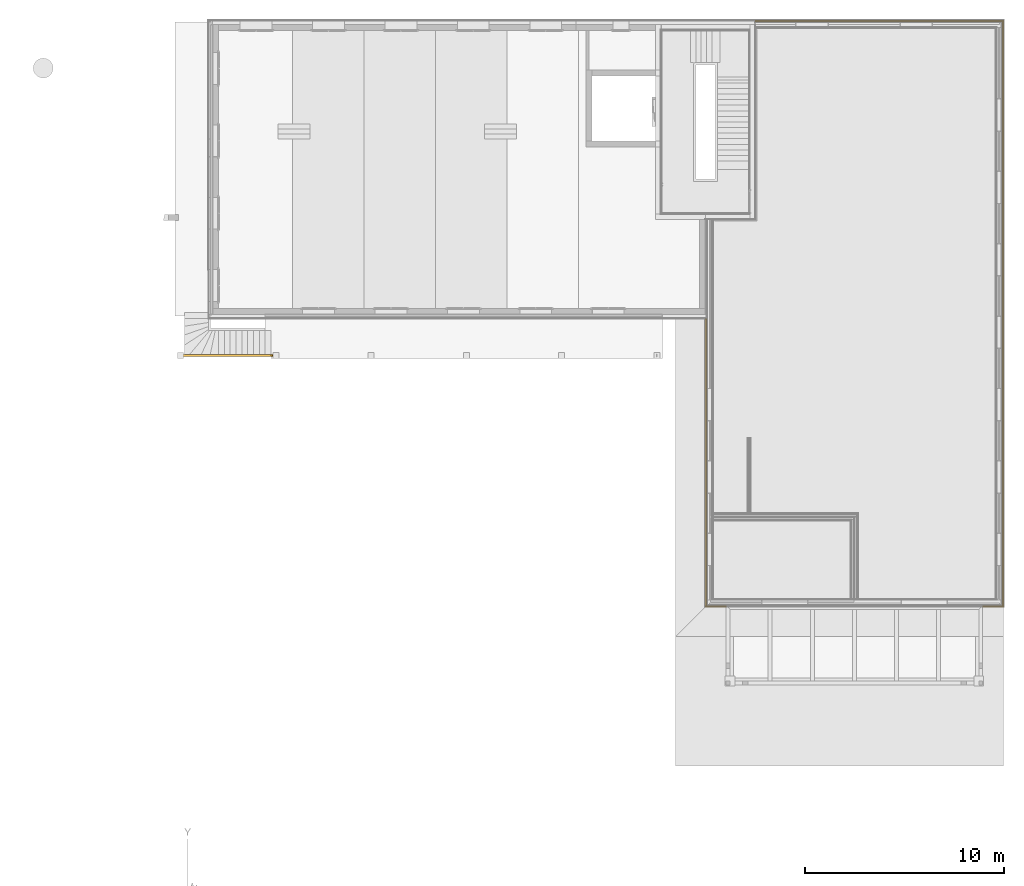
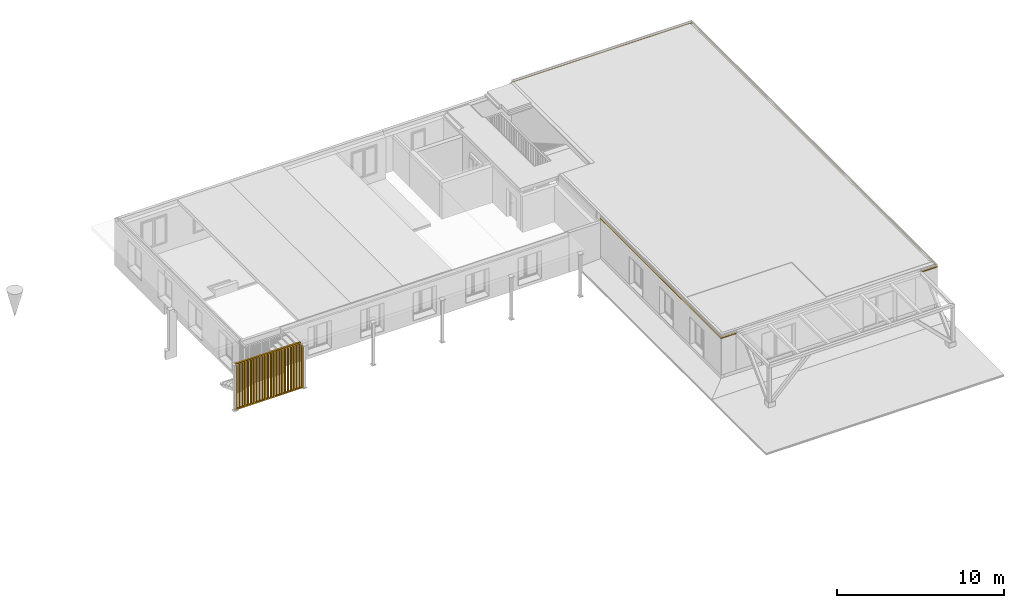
# One storey, part 18 of 20: 5 curtain walls, 1 railing.
"""IFC4 building model written with IfcOpenShell, lengths in millimetres."""

from ifc_helpers import new_model, entity, si_unit, converted_unit, derived_unit, direction, frame, origin_with_axes, place, context, subcontext, project, spatial, polygons, material, constituent, constituent_set, type_object, element, save


model = new_model("IFC4")

# Units and contexts
model_context = context("Model", 3, precision=0.01, world=origin_with_axes(), true_north=direction((0.0, 1.0)))
body_context = subcontext(model_context, "Body", "Model", "MODEL_VIEW")
ifc_project = project(units=[si_unit("LENGTHUNIT", "METRE", prefix="MILLI"), si_unit("AREAUNIT", "SQUARE_METRE"), si_unit("VOLUMEUNIT", "CUBIC_METRE"), converted_unit("PLANEANGLEUNIT", "DEGREE", entity("IfcPlaneAngleMeasure", 0.0174532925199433), si_unit("PLANEANGLEUNIT", "RADIAN"), dimensions=[0, 0, 0, 0, 0, 0, 0]), converted_unit("TIMEUNIT", "Year", entity("IfcTimeMeasure", 31557600.0), si_unit("TIMEUNIT", "SECOND"), dimensions=[0, 0, 1, 0, 0, 0, 0]), si_unit("MASSUNIT", "GRAM", prefix="KILO"), si_unit("THERMODYNAMICTEMPERATUREUNIT", "DEGREE_CELSIUS"), si_unit("LUMINOUSINTENSITYUNIT", "LUMEN"), si_unit("ENERGYUNIT", "JOULE", prefix="MEGA"), derived_unit("THERMALCONDUCTANCEUNIT", [(si_unit("POWERUNIT", "WATT"), 1), (si_unit("LENGTHUNIT", "METRE"), -1), (si_unit("THERMODYNAMICTEMPERATUREUNIT", "KELVIN"), -1)]), derived_unit("SPECIFICHEATCAPACITYUNIT", [(si_unit("ENERGYUNIT", "JOULE"), 1), (si_unit("MASSUNIT", "GRAM", prefix="KILO"), -1), (si_unit("THERMODYNAMICTEMPERATUREUNIT", "KELVIN"), -1)]), derived_unit("MASSDENSITYUNIT", [(si_unit("MASSUNIT", "GRAM", prefix="KILO"), 1), (si_unit("VOLUMEUNIT", "CUBIC_METRE"), -1)])], contexts=[model_context])

# Site, building, storey
site_placement = place(None, origin_with_axes())
site = spatial("IfcSite", under=ifc_project, at=site_placement, Name="Gelände", CompositionType="ELEMENT")
building_placement = place(site_placement, origin_with_axes())
building = spatial("IfcBuilding", under=site, at=building_placement, Name="Gebäude", CompositionType="ELEMENT")
storey_placement = place(building_placement, frame((0.0, 0.0, 5.198845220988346e-05), z_axis=(0.0, 0.0, 1.0), x_axis=(1.0, 0.0, 0.0)))
storey = spatial("IfcBuildingStorey", under=building, at=storey_placement, Name="EG", CompositionType="ELEMENT", Elevation=0.0)

# Curtain walls
ifc_material_1 = material(Name="Stahl")
ifc_constituent_1 = constituent(ifc_material_1, Name="Stahl")
ifc_constituent_set_1 = constituent_set(constituents=[ifc_constituent_1], Name="Fassadentrennblech 01")
curtain_wall_type = type_object("IfcCurtainWallType", Name="Fassadentrennblech 01 80 x 71", PredefinedType="NOTDEFINED")
curtain_wall_1_placement = place(storey_placement, frame((32857.99744391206, 37876.59726257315, 3217.955194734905), z_axis=(0.0, 0.0, 1.0), x_axis=(1.508108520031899e-09, 1.0, 0.0)))
element("IfcCurtainWall", 1, at=curtain_wall_1_placement, inside=storey, type_object=curtain_wall_type, material=ifc_constituent_set_1, Name="Unterzug-032", PredefinedType="NOTDEFINED", context=body_context, shape_type="Tessellation", body=[
    polygons([(0.0, 0.0, 9.685927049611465), (0.0, 12428.99999914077, 9.685927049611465), (77.40470302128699, 12428.99999914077, 2.04475327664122), (77.40470302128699, -77.40470290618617, 2.04475327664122), (0.0, 0.0, 42.69563025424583), (0.0, 12428.99999914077, 42.69563025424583), (2.700001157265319, 12428.99999914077, 42.69563025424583), (2.700001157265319, 12428.99999914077, 12.52688023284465), (80.10479082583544, 12428.99999914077, 4.571509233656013), (80.10474928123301, 12428.99999914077, -27.95524672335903), (77.40470302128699, 12428.99999914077, -27.95524672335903), (77.40470302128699, -77.40470290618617, -27.95524672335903), (80.10474928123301, -80.10474916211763, -27.95524672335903), (80.10479082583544, -80.10479070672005, 4.571509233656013), (2.700001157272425, -2.700001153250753, 12.52688023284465), (2.700001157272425, -2.700001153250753, 42.69563025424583)], [[[1, 2, 3, 4]], [[5, 6, 2, 1]], [[3, 2, 6, 7, 8, 9, 10, 11]], [[4, 3, 11, 12]], [[5, 1, 4, 12, 13, 14, 15, 16]], [[16, 7, 6, 5]], [[15, 8, 7, 16]], [[14, 9, 8, 15]], [[13, 10, 9, 14]], [[12, 11, 10, 13]]], closed=True),
])
ifc_constituent_2 = constituent(ifc_material_1, Name="Stahl")
ifc_constituent_set_2 = constituent_set(constituents=[ifc_constituent_2], Name="Fassadentrennblech 01")
curtain_wall_2_placement = place(storey_placement, frame((32857.9974432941, 8518.597281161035, 3217.955194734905), z_axis=(0.0, 0.0, 1.0), x_axis=(0.0, 1.0, 0.0)))
element("IfcCurtainWall", 2, at=curtain_wall_2_placement, inside=storey, type_object=curtain_wall_type, material=ifc_constituent_set_2, Name="Unterzug-032", PredefinedType="NOTDEFINED", context=body_context, shape_type="Tessellation", body=[
    polygons([(0.0, 0.0, 42.69563025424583), (0.0, 970.0000000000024, 42.69563025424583), (-2.700001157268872, 970.0000000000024, 42.69563025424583), (-2.700001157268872, -2.700001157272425, 42.69563025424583), (0.0, 0.0, 9.685927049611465), (0.0, 970.0000000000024, 9.685927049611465), (-77.40470302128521, 970.0000000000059, 2.04475327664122), (-77.40470302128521, 970.0000000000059, -27.95524672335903), (-80.10474928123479, 970.0000000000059, -27.95524672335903), (-80.10479082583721, 970.0000000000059, 4.571509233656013), (-2.700001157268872, 970.0000000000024, 12.52688023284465), (-2.700001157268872, -2.700001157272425, 12.52688023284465), (-80.10479082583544, -80.10479082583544, 4.571509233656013), (-80.10474928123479, -80.10474928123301, -27.95524672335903), (-77.40470302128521, -77.40470302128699, -27.95524672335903), (-77.40470302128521, -77.40470302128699, 2.04475327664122)], [[[1, 2, 3, 4]], [[5, 6, 2, 1]], [[3, 2, 6, 7, 8, 9, 10, 11]], [[4, 3, 11, 12]], [[5, 1, 4, 12, 13, 14, 15, 16]], [[16, 7, 6, 5]], [[15, 8, 7, 16]], [[14, 9, 8, 15]], [[13, 10, 9, 14]], [[12, 11, 10, 13]]], closed=True),
])
ifc_constituent_3 = constituent(ifc_material_1, Name="Stahl")
ifc_constituent_set_3 = constituent_set(constituents=[ifc_constituent_3], Name="Fassadentrennblech 01")
curtain_wall_3_placement = place(storey_placement, frame((32857.99744391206, 37876.59726257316, 3217.955194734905), z_axis=(0.0, 0.0, 1.0), x_axis=(-1.0, 0.0, 0.0)))
element("IfcCurtainWall", 3, at=curtain_wall_3_placement, inside=storey, type_object=curtain_wall_type, material=ifc_constituent_set_3, Name="Unterzug-032", PredefinedType="NOTDEFINED", context=body_context, shape_type="Tessellation", body=[
    polygons([(0.0, 0.0, 42.69563025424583), (0.0, 29357.99998141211, 42.69563025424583), (-2.700001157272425, 29360.69998256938, 42.69563025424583), (-2.700001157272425, -2.700001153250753, 42.69563025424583), (0.0, 0.0, 9.685927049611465), (0.0, 29357.99998141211, 9.685927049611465), (-77.40470302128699, 29435.4046844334, 2.04475327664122), (-77.40470302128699, 29435.4046844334, -27.95524672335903), (-80.10474928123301, 29438.10473069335, -27.95524672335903), (-80.10479082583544, 29438.10477223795, 4.571509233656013), (-2.700001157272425, 29360.69998256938, 12.52688023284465), (-2.700001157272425, -2.700001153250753, 12.52688023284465), (-80.10479082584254, -80.10479070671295, 4.571509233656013), (-80.10474928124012, -80.10474916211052, -27.95524672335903), (-77.40470302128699, -77.40470290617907, -27.95524672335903), (-77.40470302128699, -77.40470290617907, 2.04475327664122)], [[[1, 2, 3, 4]], [[5, 6, 2, 1]], [[3, 2, 6, 7, 8, 9, 10, 11]], [[4, 3, 11, 12]], [[5, 1, 4, 12, 13, 14, 15, 16]], [[16, 7, 6, 5]], [[15, 8, 7, 16]], [[14, 9, 8, 15]], [[13, 10, 9, 14]], [[12, 11, 10, 13]]], closed=True),
])
ifc_constituent_4 = constituent(ifc_material_1, Name="Stahl")
ifc_constituent_set_4 = constituent_set(constituents=[ifc_constituent_4], Name="Fassadentrennblech 01")
curtain_wall_4_placement = place(storey_placement, frame((17999.99744477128, 8518.597281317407, 3217.955194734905), z_axis=(0.0, 0.0, 1.0), x_axis=(0.0, -1.0, 0.0)))
element("IfcCurtainWall", 4, at=curtain_wall_4_placement, inside=storey, type_object=curtain_wall_type, material=ifc_constituent_set_4, Name="Unterzug-032", PredefinedType="NOTDEFINED", context=body_context, shape_type="Tessellation", body=[
    polygons([(0.0, 0.0, 9.685927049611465), (0.0, 969.9999999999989, 9.685927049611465), (77.40470302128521, 969.9999999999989, 2.04475327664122), (77.40470302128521, -77.40470302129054, 2.04475327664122), (0.0, 0.0, 42.69563025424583), (0.0, 969.9999999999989, 42.69563025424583), (2.700001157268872, 969.9999999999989, 42.69563025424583), (2.700001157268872, 969.9999999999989, 12.52688023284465), (80.10479082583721, 969.9999999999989, 4.571509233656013), (80.10474928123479, 969.9999999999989, -27.95524672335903), (77.40470302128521, 969.9999999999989, -27.95524672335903), (77.40470302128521, -77.40470302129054, -27.95524672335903), (80.10474928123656, -80.10474928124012, -27.95524672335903), (80.10479082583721, -80.10479082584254, 4.571509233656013), (2.700001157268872, -2.700001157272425, 12.52688023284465), (2.700001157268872, -2.700001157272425, 42.69563025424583)], [[[1, 2, 3, 4]], [[5, 6, 2, 1]], [[3, 2, 6, 7, 8, 9, 10, 11]], [[4, 3, 11, 12]], [[5, 1, 4, 12, 13, 14, 15, 16]], [[16, 7, 6, 5]], [[15, 8, 7, 16]], [[14, 9, 8, 15]], [[13, 10, 9, 14]], [[12, 11, 10, 13]]], closed=True),
])
ifc_constituent_5 = constituent(ifc_material_1, Name="Stahl")
ifc_constituent_set_5 = constituent_set(constituents=[ifc_constituent_5], Name="Fassadentrennblech 01")
curtain_wall_5_placement = place(storey_placement, frame((17999.99744477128, 22947.48446271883, 3217.955194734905), z_axis=(0.0, 0.0, 1.0), x_axis=(-1.0, 0.0, 0.0)))
element("IfcCurtainWall", 5, at=curtain_wall_5_placement, inside=storey, type_object=curtain_wall_type, material=ifc_constituent_set_5, Name="Unterzug-032", PredefinedType="NOTDEFINED", context=body_context, shape_type="Tessellation", body=[
    polygons([(0.0, 0.0, 9.685927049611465), (0.0, 14428.88718140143, 9.685927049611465), (77.40470302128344, 14506.29188442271, 2.04475327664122), (77.40470302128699, 0.0, 2.04475327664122), (0.0, 0.0, 42.69563025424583), (0.0, 14428.88718140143, 42.69563025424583), (2.700001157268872, 14431.5871825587, 42.69563025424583), (2.700001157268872, 14431.5871825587, 12.52688023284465), (80.10479082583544, 14508.99197222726, 4.571509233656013), (80.10474928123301, 14508.99193068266, -27.95524672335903), (77.40470302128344, 14506.29188442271, -27.95524672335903), (77.40470302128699, 0.0, -27.95524672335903), (80.10474928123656, 0.0, -27.95524672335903), (80.10479082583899, 0.0, 4.571509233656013), (2.700001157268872, 0.0, 12.52688023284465), (2.700001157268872, 0.0, 42.69563025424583)], [[[1, 2, 3, 4]], [[5, 6, 2, 1]], [[3, 2, 6, 7, 8, 9, 10, 11]], [[4, 3, 11, 12]], [[5, 1, 4, 12, 13, 14, 15, 16]], [[16, 7, 6, 5]], [[15, 8, 7, 16]], [[14, 9, 8, 15]], [[13, 10, 9, 14]], [[12, 11, 10, 13]]], closed=True),
])

# Railing
ifc_material_2 = material(Name="Vollholzwerkstoff")
ifc_constituent_6 = constituent(ifc_material_2, Name="Vollholzwerkstoff 1")
ifc_constituent_7 = constituent(ifc_material_2, Name="Vollholzwerkstoff 2")
ifc_constituent_8 = constituent(ifc_material_2, Name="Vollholzwerkstoff 3")
ifc_constituent_9 = constituent(ifc_material_2, Name="Vollholzwerkstoff 4")
ifc_constituent_10 = constituent(ifc_material_2, Name="Vollholzwerkstoff 5")
ifc_constituent_11 = constituent(ifc_material_2, Name="Vollholzwerkstoff 6")
ifc_constituent_12 = constituent(ifc_material_2, Name="Vollholzwerkstoff 7")
ifc_constituent_13 = constituent(ifc_material_2, Name="Vollholzwerkstoff 8")
ifc_constituent_14 = constituent(ifc_material_2, Name="Vollholzwerkstoff 9")
ifc_constituent_15 = constituent(ifc_material_2, Name="Vollholzwerkstoff 10")
ifc_constituent_16 = constituent(ifc_material_2, Name="Vollholzwerkstoff 11")
ifc_constituent_17 = constituent(ifc_material_2, Name="Vollholzwerkstoff 12")
ifc_constituent_18 = constituent(ifc_material_2, Name="Vollholzwerkstoff 13")
ifc_constituent_19 = constituent(ifc_material_2, Name="Vollholzwerkstoff 14")
ifc_constituent_20 = constituent(ifc_material_2, Name="Vollholzwerkstoff 15")
ifc_constituent_21 = constituent(ifc_material_2, Name="Vollholzwerkstoff 16")
ifc_constituent_22 = constituent(ifc_material_2, Name="Vollholzwerkstoff 17")
ifc_constituent_23 = constituent(ifc_material_2, Name="Vollholzwerkstoff 18")
ifc_constituent_24 = constituent(ifc_material_2, Name="Vollholzwerkstoff 19")
ifc_constituent_25 = constituent(ifc_material_2, Name="Vollholzwerkstoff 20")
ifc_constituent_26 = constituent(ifc_material_2, Name="Vollholzwerkstoff 21")
ifc_constituent_27 = constituent(ifc_material_2, Name="Vollholzwerkstoff 22")
ifc_constituent_28 = constituent(ifc_material_2, Name="Vollholzwerkstoff 23")
ifc_constituent_29 = constituent(ifc_material_2, Name="Vollholzwerkstoff 24")
ifc_constituent_30 = constituent(ifc_material_2, Name="Vollholzwerkstoff 25")
ifc_constituent_31 = constituent(ifc_material_2, Name="Vollholzwerkstoff 26")
ifc_constituent_32 = constituent(ifc_material_2, Name="Vollholzwerkstoff 27")
ifc_constituent_33 = constituent(ifc_material_2, Name="Vollholzwerkstoff 28")
ifc_constituent_set_6 = constituent_set(constituents=[ifc_constituent_6, ifc_constituent_7, ifc_constituent_8, ifc_constituent_9, ifc_constituent_10, ifc_constituent_11, ifc_constituent_12, ifc_constituent_13, ifc_constituent_14, ifc_constituent_15, ifc_constituent_16, ifc_constituent_17, ifc_constituent_18, ifc_constituent_19, ifc_constituent_20, ifc_constituent_21, ifc_constituent_22, ifc_constituent_23, ifc_constituent_24, ifc_constituent_25, ifc_constituent_26, ifc_constituent_27, ifc_constituent_28, ifc_constituent_29, ifc_constituent_30, ifc_constituent_31, ifc_constituent_32, ifc_constituent_33])
railing_type = type_object("IfcRailingType", Name="Geländerart", PredefinedType="NOTDEFINED")
railing_placement = place(storey_placement, frame((-8585.063643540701, 21097.59674077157, -425.0), z_axis=(0.0, 0.0, 1.0), x_axis=(1.0, 0.0, 0.0)))
element("IfcRailing", 6, at=railing_placement, inside=storey, type_object=railing_type, material=ifc_constituent_set_6, Name="Geländer-001", PredefinedType="NOTDEFINED", context=body_context, shape_type="Tessellation", body=[
    polygons([(4491.115876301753, -59.99999999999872, 3354.999948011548), (139.0594620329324, -59.99999999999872, 3354.999948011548), (139.0594620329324, -59.99999999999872, 3274.999948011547), (4491.115876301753, -59.99999999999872, 3274.999948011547), (4491.115876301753, 59.99999999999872, 3354.999948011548), (139.0594620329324, 59.99999999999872, 3354.999948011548), (139.0594620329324, 59.99999999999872, 3274.999948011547), (4491.115876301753, 59.99999999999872, 3274.999948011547)], [[[1, 2, 3, 4]], [[5, 6, 2, 1]], [[3, 2, 6, 7]], [[4, 3, 7, 8]], [[5, 1, 4, 8]], [[8, 7, 6, 5]]], closed=True),
    polygons([(139.0594620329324, -59.99999999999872, 39.99999999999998), (139.0594620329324, -59.99999999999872, -39.99999999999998), (4491.115876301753, -59.99999999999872, -39.99999999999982), (4491.115876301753, -59.99999999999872, 40.00000000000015), (139.0594620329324, 59.99999999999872, 39.99999999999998), (139.0594620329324, 59.99999999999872, -39.99999999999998), (4491.115876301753, 59.99999999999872, -39.99999999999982), (4491.115876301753, 59.99999999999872, 40.00000000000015)], [[[1, 2, 3, 4]], [[1, 5, 6, 2]], [[2, 6, 7, 3]], [[4, 3, 7, 8]], [[5, 1, 4, 8]], [[6, 5, 8, 7]]], closed=True),
    polygons([(276.9749583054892, -59.99999999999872, 39.99999999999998), (276.9749583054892, 59.99999999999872, 39.99999999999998), (276.9749583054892, 59.99999999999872, 3274.999948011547), (276.9749583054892, -59.99999999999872, 3274.999948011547), (196.9749583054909, -59.99999999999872, 39.99999999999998), (196.9749583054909, 59.99999999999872, 39.99999999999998), (196.9749583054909, 59.99999999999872, 3274.999948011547), (196.9749583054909, -59.99999999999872, 3274.999948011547)], [[[1, 2, 3, 4]], [[1, 5, 6, 2]], [[2, 6, 7, 3]], [[4, 3, 7, 8]], [[5, 1, 4, 8]], [[6, 5, 8, 7]]], closed=True),
    polygons([(474.8904545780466, -59.99999999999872, 39.99999999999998), (474.8904545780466, 59.99999999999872, 39.99999999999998), (474.8904545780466, 59.99999999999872, 3274.999948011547), (474.8904545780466, -59.99999999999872, 3274.999948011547), (394.8904545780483, -59.99999999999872, 39.99999999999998), (394.8904545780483, 59.99999999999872, 39.99999999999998), (394.8904545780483, 59.99999999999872, 3274.999948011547), (394.8904545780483, -59.99999999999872, 3274.999948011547)], [[[1, 2, 3, 4]], [[1, 5, 6, 2]], [[2, 6, 7, 3]], [[4, 3, 7, 8]], [[5, 1, 4, 8]], [[6, 5, 8, 7]]], closed=True),
    polygons([(672.8059508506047, -59.99999999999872, 39.99999999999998), (672.8059508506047, 59.99999999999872, 39.99999999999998), (672.8059508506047, 59.99999999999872, 3274.999948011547), (672.8059508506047, -59.99999999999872, 3274.999948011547), (592.8059508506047, -59.99999999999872, 39.99999999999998), (592.8059508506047, 59.99999999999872, 39.99999999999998), (592.8059508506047, 59.99999999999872, 3274.999948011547), (592.8059508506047, -59.99999999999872, 3274.999948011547)], [[[1, 2, 3, 4]], [[1, 5, 6, 2]], [[2, 6, 7, 3]], [[4, 3, 7, 8]], [[5, 1, 4, 8]], [[6, 5, 8, 7]]], closed=True),
    polygons([(870.7214471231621, -59.99999999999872, 39.99999999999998), (870.7214471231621, 59.99999999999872, 39.99999999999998), (870.7214471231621, 59.99999999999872, 3274.999948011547), (870.7214471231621, -59.99999999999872, 3274.999948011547), (790.7214471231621, -59.99999999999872, 39.99999999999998), (790.7214471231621, 59.99999999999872, 39.99999999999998), (790.7214471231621, 59.99999999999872, 3274.999948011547), (790.7214471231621, -59.99999999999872, 3274.999948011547)], [[[1, 2, 3, 4]], [[1, 5, 6, 2]], [[2, 6, 7, 3]], [[4, 3, 7, 8]], [[5, 1, 4, 8]], [[6, 5, 8, 7]]], closed=True),
    polygons([(1068.63694339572, -59.99999999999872, 40.00000000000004), (1068.63694339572, 59.99999999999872, 40.00000000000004), (1068.63694339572, 59.99999999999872, 3274.999948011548), (1068.63694339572, -59.99999999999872, 3274.999948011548), (988.6369433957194, -59.99999999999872, 40.00000000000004), (988.6369433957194, 59.99999999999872, 40.00000000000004), (988.6369433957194, 59.99999999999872, 3274.999948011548), (988.6369433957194, -59.99999999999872, 3274.999948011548)], [[[1, 2, 3, 4]], [[1, 5, 6, 2]], [[2, 6, 7, 3]], [[4, 3, 7, 8]], [[5, 1, 4, 8]], [[6, 5, 8, 7]]], closed=True),
    polygons([(1266.552439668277, -59.99999999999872, 40.00000000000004), (1266.552439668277, 59.99999999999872, 40.00000000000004), (1266.552439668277, 59.99999999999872, 3274.999948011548), (1266.552439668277, -59.99999999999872, 3274.999948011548), (1186.552439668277, -59.99999999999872, 40.00000000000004), (1186.552439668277, 59.99999999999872, 40.00000000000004), (1186.552439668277, 59.99999999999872, 3274.999948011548), (1186.552439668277, -59.99999999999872, 3274.999948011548)], [[[1, 2, 3, 4]], [[1, 5, 6, 2]], [[2, 6, 7, 3]], [[4, 3, 7, 8]], [[5, 1, 4, 8]], [[6, 5, 8, 7]]], closed=True),
    polygons([(1464.467935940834, -59.99999999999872, 40.00000000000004), (1464.467935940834, 59.99999999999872, 40.00000000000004), (1464.467935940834, 59.99999999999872, 3274.999948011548), (1464.467935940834, -59.99999999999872, 3274.999948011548), (1384.467935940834, -59.99999999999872, 40.00000000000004), (1384.467935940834, 59.99999999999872, 40.00000000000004), (1384.467935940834, 59.99999999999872, 3274.999948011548), (1384.467935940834, -59.99999999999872, 3274.999948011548)], [[[1, 2, 3, 4]], [[1, 5, 6, 2]], [[2, 6, 7, 3]], [[4, 3, 7, 8]], [[5, 1, 4, 8]], [[6, 5, 8, 7]]], closed=True),
    polygons([(1662.383432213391, -59.99999999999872, 40.00000000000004), (1662.383432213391, 59.99999999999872, 40.00000000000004), (1662.383432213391, 59.99999999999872, 3274.999948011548), (1662.383432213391, -59.99999999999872, 3274.999948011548), (1582.383432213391, -59.99999999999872, 40.00000000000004), (1582.383432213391, 59.99999999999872, 40.00000000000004), (1582.383432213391, 59.99999999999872, 3274.999948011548), (1582.383432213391, -59.99999999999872, 3274.999948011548)], [[[1, 2, 3, 4]], [[1, 5, 6, 2]], [[2, 6, 7, 3]], [[4, 3, 7, 8]], [[5, 1, 4, 8]], [[6, 5, 8, 7]]], closed=True),
    polygons([(1860.298928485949, -59.99999999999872, 40.00000000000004), (1860.298928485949, 59.99999999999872, 40.00000000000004), (1860.298928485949, 59.99999999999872, 3274.999948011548), (1860.298928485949, -59.99999999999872, 3274.999948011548), (1780.298928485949, -59.99999999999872, 40.00000000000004), (1780.298928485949, 59.99999999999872, 40.00000000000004), (1780.298928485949, 59.99999999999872, 3274.999948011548), (1780.298928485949, -59.99999999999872, 3274.999948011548)], [[[1, 2, 3, 4]], [[1, 5, 6, 2]], [[2, 6, 7, 3]], [[4, 3, 7, 8]], [[5, 1, 4, 8]], [[6, 5, 8, 7]]], closed=True),
    polygons([(2058.214424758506, -59.99999999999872, 40.00000000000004), (2058.214424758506, 59.99999999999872, 40.00000000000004), (2058.214424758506, 59.99999999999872, 3274.999948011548), (2058.214424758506, -59.99999999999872, 3274.999948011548), (1978.214424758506, -59.99999999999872, 40.00000000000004), (1978.214424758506, 59.99999999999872, 40.00000000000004), (1978.214424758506, 59.99999999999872, 3274.999948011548), (1978.214424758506, -59.99999999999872, 3274.999948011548)], [[[1, 2, 3, 4]], [[1, 5, 6, 2]], [[2, 6, 7, 3]], [[4, 3, 7, 8]], [[5, 1, 4, 8]], [[6, 5, 8, 7]]], closed=True),
    polygons([(2256.129921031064, -59.99999999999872, 40.00000000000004), (2256.129921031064, 59.99999999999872, 40.00000000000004), (2256.129921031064, 59.99999999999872, 3274.999948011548), (2256.129921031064, -59.99999999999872, 3274.999948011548), (2176.129921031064, -59.99999999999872, 40.00000000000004), (2176.129921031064, 59.99999999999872, 40.00000000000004), (2176.129921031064, 59.99999999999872, 3274.999948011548), (2176.129921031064, -59.99999999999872, 3274.999948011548)], [[[1, 2, 3, 4]], [[1, 5, 6, 2]], [[2, 6, 7, 3]], [[4, 3, 7, 8]], [[5, 1, 4, 8]], [[6, 5, 8, 7]]], closed=True),
    polygons([(2454.045417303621, -59.99999999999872, 40.00000000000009), (2454.045417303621, 59.99999999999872, 40.00000000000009), (2454.045417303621, 59.99999999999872, 3274.999948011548), (2454.045417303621, -59.99999999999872, 3274.999948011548), (2374.045417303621, -59.99999999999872, 40.00000000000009), (2374.045417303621, 59.99999999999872, 40.00000000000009), (2374.045417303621, 59.99999999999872, 3274.999948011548), (2374.045417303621, -59.99999999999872, 3274.999948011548)], [[[1, 2, 3, 4]], [[1, 5, 6, 2]], [[2, 6, 7, 3]], [[4, 3, 7, 8]], [[5, 1, 4, 8]], [[6, 5, 8, 7]]], closed=True),
    polygons([(2651.960913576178, -59.99999999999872, 40.00000000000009), (2651.960913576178, 59.99999999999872, 40.00000000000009), (2651.960913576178, 59.99999999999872, 3274.999948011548), (2651.960913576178, -59.99999999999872, 3274.999948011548), (2571.960913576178, -59.99999999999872, 40.00000000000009), (2571.960913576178, 59.99999999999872, 40.00000000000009), (2571.960913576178, 59.99999999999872, 3274.999948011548), (2571.960913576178, -59.99999999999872, 3274.999948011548)], [[[1, 2, 3, 4]], [[1, 5, 6, 2]], [[2, 6, 7, 3]], [[4, 3, 7, 8]], [[5, 1, 4, 8]], [[6, 5, 8, 7]]], closed=True),
    polygons([(2849.876409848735, -59.99999999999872, 40.00000000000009), (2849.876409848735, 59.99999999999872, 40.00000000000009), (2849.876409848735, 59.99999999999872, 3274.999948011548), (2849.876409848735, -59.99999999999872, 3274.999948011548), (2769.876409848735, -59.99999999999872, 40.00000000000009), (2769.876409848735, 59.99999999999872, 40.00000000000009), (2769.876409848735, 59.99999999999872, 3274.999948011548), (2769.876409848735, -59.99999999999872, 3274.999948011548)], [[[1, 2, 3, 4]], [[1, 5, 6, 2]], [[2, 6, 7, 3]], [[4, 3, 7, 8]], [[5, 1, 4, 8]], [[6, 5, 8, 7]]], closed=True),
    polygons([(3047.791906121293, -59.99999999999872, 40.00000000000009), (3047.791906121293, 59.99999999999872, 40.00000000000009), (3047.791906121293, 59.99999999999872, 3274.999948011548), (3047.791906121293, -59.99999999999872, 3274.999948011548), (2967.791906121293, -59.99999999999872, 40.00000000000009), (2967.791906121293, 59.99999999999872, 40.00000000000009), (2967.791906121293, 59.99999999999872, 3274.999948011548), (2967.791906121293, -59.99999999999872, 3274.999948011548)], [[[1, 2, 3, 4]], [[1, 5, 6, 2]], [[2, 6, 7, 3]], [[4, 3, 7, 8]], [[5, 1, 4, 8]], [[6, 5, 8, 7]]], closed=True),
    polygons([(3245.70740239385, -59.99999999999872, 40.00000000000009), (3245.70740239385, 59.99999999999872, 40.00000000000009), (3245.70740239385, 59.99999999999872, 3274.999948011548), (3245.70740239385, -59.99999999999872, 3274.999948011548), (3165.70740239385, -59.99999999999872, 40.00000000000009), (3165.70740239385, 59.99999999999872, 40.00000000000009), (3165.70740239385, 59.99999999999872, 3274.999948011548), (3165.70740239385, -59.99999999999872, 3274.999948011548)], [[[1, 2, 3, 4]], [[1, 5, 6, 2]], [[2, 6, 7, 3]], [[4, 3, 7, 8]], [[5, 1, 4, 8]], [[6, 5, 8, 7]]], closed=True),
    polygons([(3443.622898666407, -59.99999999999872, 40.00000000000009), (3443.622898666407, 59.99999999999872, 40.00000000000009), (3443.622898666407, 59.99999999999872, 3274.999948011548), (3443.622898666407, -59.99999999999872, 3274.999948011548), (3363.622898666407, -59.99999999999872, 40.00000000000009), (3363.622898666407, 59.99999999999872, 40.00000000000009), (3363.622898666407, 59.99999999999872, 3274.999948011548), (3363.622898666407, -59.99999999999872, 3274.999948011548)], [[[1, 2, 3, 4]], [[1, 5, 6, 2]], [[2, 6, 7, 3]], [[4, 3, 7, 8]], [[5, 1, 4, 8]], [[6, 5, 8, 7]]], closed=True),
    polygons([(3641.538394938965, -59.99999999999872, 40.00000000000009), (3641.538394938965, 59.99999999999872, 40.00000000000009), (3641.538394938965, 59.99999999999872, 3274.999948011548), (3641.538394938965, -59.99999999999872, 3274.999948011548), (3561.538394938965, -59.99999999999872, 40.00000000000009), (3561.538394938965, 59.99999999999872, 40.00000000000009), (3561.538394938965, 59.99999999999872, 3274.999948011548), (3561.538394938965, -59.99999999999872, 3274.999948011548)], [[[1, 2, 3, 4]], [[1, 5, 6, 2]], [[2, 6, 7, 3]], [[4, 3, 7, 8]], [[5, 1, 4, 8]], [[6, 5, 8, 7]]], closed=True),
    polygons([(3839.453891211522, -59.99999999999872, 40.00000000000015), (3839.453891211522, 59.99999999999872, 40.00000000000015), (3839.453891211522, 59.99999999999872, 3274.999948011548), (3839.453891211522, -59.99999999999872, 3274.999948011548), (3759.453891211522, -59.99999999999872, 40.00000000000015), (3759.453891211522, 59.99999999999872, 40.00000000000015), (3759.453891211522, 59.99999999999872, 3274.999948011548), (3759.453891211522, -59.99999999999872, 3274.999948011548)], [[[1, 2, 3, 4]], [[1, 5, 6, 2]], [[2, 6, 7, 3]], [[4, 3, 7, 8]], [[5, 1, 4, 8]], [[6, 5, 8, 7]]], closed=True),
    polygons([(4037.36938748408, -59.99999999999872, 40.00000000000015), (4037.36938748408, 59.99999999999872, 40.00000000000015), (4037.36938748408, 59.99999999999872, 3274.999948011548), (4037.36938748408, -59.99999999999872, 3274.999948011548), (3957.369387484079, -59.99999999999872, 40.00000000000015), (3957.369387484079, 59.99999999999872, 40.00000000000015), (3957.369387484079, 59.99999999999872, 3274.999948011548), (3957.369387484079, -59.99999999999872, 3274.999948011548)], [[[1, 2, 3, 4]], [[1, 5, 6, 2]], [[2, 6, 7, 3]], [[4, 3, 7, 8]], [[5, 1, 4, 8]], [[6, 5, 8, 7]]], closed=True),
    polygons([(4235.284883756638, -59.99999999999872, 40.00000000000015), (4235.284883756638, 59.99999999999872, 40.00000000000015), (4235.284883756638, 59.99999999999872, 3274.999948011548), (4235.284883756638, -59.99999999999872, 3274.999948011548), (4155.284883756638, -59.99999999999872, 40.00000000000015), (4155.284883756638, 59.99999999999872, 40.00000000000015), (4155.284883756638, 59.99999999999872, 3274.999948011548), (4155.284883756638, -59.99999999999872, 3274.999948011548)], [[[1, 2, 3, 4]], [[1, 5, 6, 2]], [[2, 6, 7, 3]], [[4, 3, 7, 8]], [[5, 1, 4, 8]], [[6, 5, 8, 7]]], closed=True),
    polygons([(4433.200380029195, -59.99999999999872, 3274.999948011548), (4433.200380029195, -59.99999999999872, 40.0000000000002), (4433.200380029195, 59.99999999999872, 40.0000000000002), (4433.200380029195, 59.99999999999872, 3274.999948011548), (4353.200380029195, -59.99999999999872, 3274.999948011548), (4353.200380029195, -59.99999999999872, 40.0000000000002), (4353.200380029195, 59.99999999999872, 40.0000000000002), (4353.200380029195, 59.99999999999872, 3274.999948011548)], [[[1, 2, 3, 4]], [[5, 6, 2, 1]], [[3, 2, 6, 7]], [[4, 3, 7, 8]], [[5, 1, 4, 8]], [[8, 7, 6, 5]]], closed=True),
    polygons([(4659.859429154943, -59.99999999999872, 3354.999948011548), (4659.859429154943, 59.99999999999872, 3354.999948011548), (4491.115876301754, 59.99999999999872, 3354.999948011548), (4491.115876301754, -59.99999999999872, 3354.999948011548), (4659.859429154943, 59.99999999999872, 3274.999948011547), (4659.859429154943, -59.99999999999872, 3274.999948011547), (4491.115876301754, 59.99999999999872, 3274.999948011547), (4491.115876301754, -59.99999999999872, 3274.999948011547)], [[[1, 2, 3, 4]], [[5, 2, 1, 6]], [[2, 5, 7, 3]], [[8, 4, 3, 7]], [[6, 1, 4, 8]], [[5, 6, 8, 7]]], closed=True),
    polygons([(4491.115876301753, -59.99999999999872, 40.00000000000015), (4491.115876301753, -59.99999999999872, -39.99999999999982), (4889.859462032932, -59.99999999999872, -39.99999999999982), (4889.859462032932, -59.99999999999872, 40.00000000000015), (4491.115876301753, 59.99999999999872, 40.00000000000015), (4491.115876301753, 59.99999999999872, -39.99999999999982), (4889.859462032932, 59.99999999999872, -39.99999999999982), (4889.859462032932, 59.99999999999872, 40.00000000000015)], [[[1, 2, 3, 4]], [[1, 5, 6, 2]], [[2, 6, 7, 3]], [[4, 3, 7, 8]], [[5, 1, 4, 8]], [[6, 5, 8, 7]]], closed=True),
    polygons([(4630.697071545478, -59.99999999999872, 3274.999948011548), (4630.697071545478, -59.99999999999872, 40.0000000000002), (4630.697071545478, 59.99999999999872, 40.0000000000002), (4630.697071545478, 59.99999999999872, 3274.999948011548), (4550.69707154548, -59.99999999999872, 3274.999948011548), (4550.69707154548, -59.99999999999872, 40.0000000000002), (4550.69707154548, 59.99999999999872, 40.0000000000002), (4550.69707154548, 59.99999999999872, 3274.999948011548)], [[[1, 2, 3, 4]], [[5, 6, 2, 1]], [[3, 2, 6, 7]], [[4, 3, 7, 8]], [[5, 1, 4, 8]], [[8, 7, 6, 5]]], closed=True),
    polygons([(4750.278266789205, 59.99999999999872, 3074.999948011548), (4830.278266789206, 59.99999999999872, 3074.999948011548), (4830.278266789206, 59.99999999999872, 40.0000000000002), (4750.278266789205, 59.99999999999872, 40.0000000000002), (4830.278266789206, -59.99999999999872, 3074.999948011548), (4750.278266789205, -59.99999999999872, 3074.999948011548), (4830.278266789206, -59.99999999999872, 40.0000000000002), (4750.278266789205, -59.99999999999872, 40.0000000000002)], [[[1, 2, 3, 4]], [[5, 2, 1, 6]], [[2, 5, 7, 3]], [[3, 7, 8, 4]], [[6, 1, 4, 8]], [[5, 6, 8, 7]]], closed=True),
])

save(model, "model.ifc")
